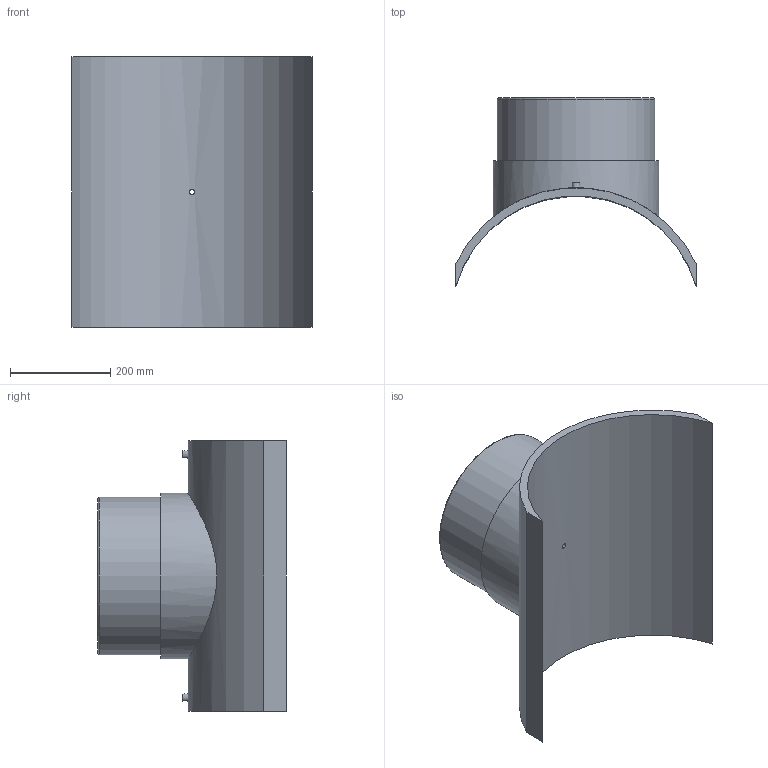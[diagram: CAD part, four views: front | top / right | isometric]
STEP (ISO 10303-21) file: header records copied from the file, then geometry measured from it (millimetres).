
FILE_DESCRIPTION(/* description */ ('PLASSON BRANCH SADDLE 500x315'),/* implementation_level */ '2;1');
FILE_NAME(/* name */ 'C:\Dropbox\KIMPROJECTS-Inventor 2019\99-16-3568-Processing\ElectroFusion Fittings\495803\stp\495803500315T.stp',/* time_stamp */ '2024-04-04T11:48:55+02:00',/* author */ ('KIM'),/* organization */ (''),/* preprocessor_version */ 'ST-DEVELOPER v17.2',/* originating_system */ 'Autodesk Inventor 2019',/* authorisation */ '');
FILE_SCHEMA (('AUTOMOTIVE_DESIGN { 1 0 10303 214 3 1 1 }'));
Length unit declared in the file: millimetre
Products named in the file (1): 495803500315T
Bounding box: 480 x 376 x 540 mm (x, y, z)
Volume: 11613422.7 mm3; surface area: 1107845.5 mm2
Topology: 1 solids, 1 shells, 29 faces, 60 edges, 43 vertices
Faces by surface type: plane 13, cylinder 12, torus 2, cone 2
Full cylindrical faces by diameter (mm): 4 x2, 9.6 x1, 10 x2, 16 x1, 252 x1, 315 x1, 330.75 x1
Entity records: 1102 total; most frequent: CARTESIAN_POINT 416, DIRECTION 139, ORIENTED_EDGE 120, EDGE_CURVE 60, AXIS2_PLACEMENT_3D 60, VERTEX_POINT 43, EDGE_LOOP 41, CIRCLE 30
